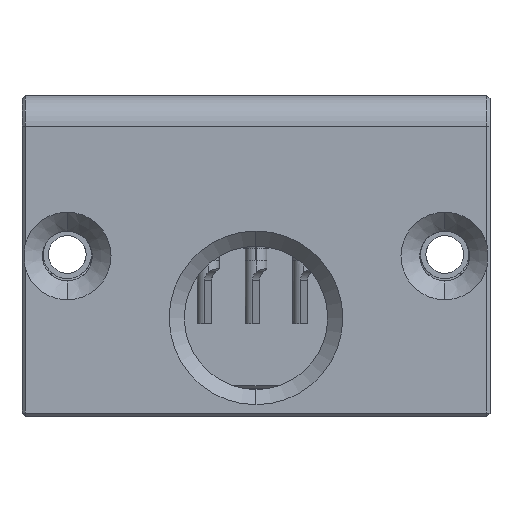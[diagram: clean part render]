
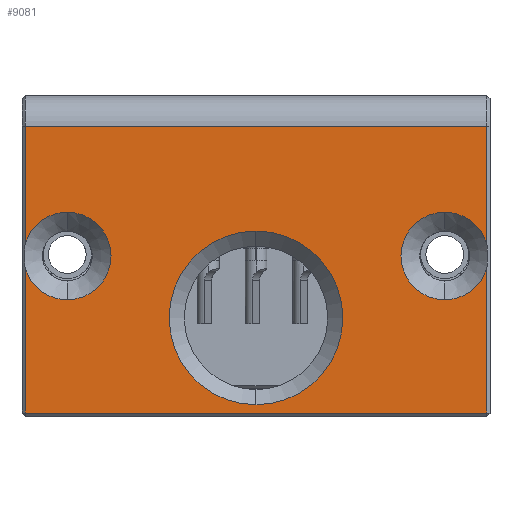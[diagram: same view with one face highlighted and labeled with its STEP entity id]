
A CAD part, front view. The second image highlights one B-rep face of the part: STEP entity #9081.
In plain terms, the highlighted planar face has unit normal (0, -1, 0).
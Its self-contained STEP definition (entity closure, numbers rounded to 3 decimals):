
#90 = CARTESIAN_POINT ( 'NONE',  ( 15.3, -19.3, -17.1 ) ) ;
#352 = DIRECTION ( 'NONE',  ( 1., 0., 0. ) ) ;
#419 = CARTESIAN_POINT ( 'NONE',  ( 0., -19.3, -17.1 ) ) ;
#1311 = ORIENTED_EDGE ( 'NONE', *, *, #11375, .T. ) ;
#1313 = CARTESIAN_POINT ( 'NONE',  ( 0., -19.3, -10.8 ) ) ;
#1347 = CIRCLE ( 'NONE', #11994, 5.75 ) ;
#1362 = DIRECTION ( 'NONE',  ( 0., 1., 0. ) ) ;
#1367 = DIRECTION ( 'NONE',  ( 0., 0., -1. ) ) ;
#1386 = EDGE_CURVE ( 'NONE', #19910, #5057, #8253, .T. ) ;
#1782 = EDGE_CURVE ( 'NONE', #14238, #8580, #18817, .T. ) ;
#1802 = CARTESIAN_POINT ( 'NONE',  ( -15.3, -19.3, -7.455 ) ) ;
#2226 = EDGE_CURVE ( 'NONE', #13300, #2489, #4029, .T. ) ;
#2379 = CIRCLE ( 'NONE', #12183, 5.75 ) ;
#2489 = VERTEX_POINT ( 'NONE', #3591 ) ;
#2608 = LINE ( 'NONE', #11433, #20014 ) ;
#2733 = VECTOR ( 'NONE', #7648, 1000. ) ;
#2794 = ORIENTED_EDGE ( 'NONE', *, *, #14743, .F. ) ;
#2846 = CARTESIAN_POINT ( 'NONE',  ( 12.5, -19.3, -6.7 ) ) ;
#2924 = DIRECTION ( 'NONE',  ( 0., 1., 0. ) ) ;
#2945 = DIRECTION ( 'NONE',  ( 0., 0., -1. ) ) ;
#3150 = EDGE_LOOP ( 'NONE', ( #18522, #13864 ) ) ;
#3349 = VECTOR ( 'NONE', #352, 1000. ) ;
#3423 = CARTESIAN_POINT ( 'NONE',  ( -15.3, -19.3, -7.6 ) ) ;
#3468 = LINE ( 'NONE', #10490, #20871 ) ;
#3591 = CARTESIAN_POINT ( 'NONE',  ( -12.5, -19.3, -3.8 ) ) ;
#3875 = LINE ( 'NONE', #419, #3349 ) ;
#3913 = FACE_BOUND ( 'NONE', #3150, .T. ) ;
#4029 = CIRCLE ( 'NONE', #19526, 2.9 ) ;
#4056 = EDGE_CURVE ( 'NONE', #14294, #16067, #2379, .T. ) ;
#4449 = DIRECTION ( 'NONE',  ( 0., 0., 1. ) ) ;
#4513 = CARTESIAN_POINT ( 'NONE',  ( 15.3, -19.3, -7.6 ) ) ;
#4716 = CIRCLE ( 'NONE', #15822, 2.9 ) ;
#5057 = VERTEX_POINT ( 'NONE', #19554 ) ;
#5393 = VERTEX_POINT ( 'NONE', #1802 ) ;
#5514 = DIRECTION ( 'NONE',  ( 0., 0., -1. ) ) ;
#5962 = CARTESIAN_POINT ( 'NONE',  ( 12.5, -19.3, -3.8 ) ) ;
#6364 = CARTESIAN_POINT ( 'NONE',  ( -12.5, -19.3, -6.7 ) ) ;
#6508 = EDGE_CURVE ( 'NONE', #16067, #14294, #1347, .T. ) ;
#6780 = CIRCLE ( 'NONE', #7609, 2.9 ) ;
#7087 = CARTESIAN_POINT ( 'NONE',  ( 0., -19.3, 1.9 ) ) ;
#7156 = VERTEX_POINT ( 'NONE', #12056 ) ;
#7609 = AXIS2_PLACEMENT_3D ( 'NONE', #8174, #8247, #8539 ) ;
#7648 = DIRECTION ( 'NONE',  ( -1., 0., 0. ) ) ;
#7862 = FACE_OUTER_BOUND ( 'NONE', #18199, .T. ) ;
#7917 = VERTEX_POINT ( 'NONE', #13741 ) ;
#7965 = EDGE_CURVE ( 'NONE', #2489, #18588, #4716, .T. ) ;
#8174 = CARTESIAN_POINT ( 'NONE',  ( -12.5, -19.3, -6.7 ) ) ;
#8247 = DIRECTION ( 'NONE',  ( 0., -1., 0. ) ) ;
#8253 = LINE ( 'NONE', #7087, #2733 ) ;
#8375 = ORIENTED_EDGE ( 'NONE', *, *, #1386, .T. ) ;
#8539 = DIRECTION ( 'NONE',  ( 0., 0., -1. ) ) ;
#8580 = VERTEX_POINT ( 'NONE', #5962 ) ;
#9081 = ADVANCED_FACE ( 'NONE', ( #3913, #7862 ), #17343, .T. ) ;
#9228 = DIRECTION ( 'NONE',  ( 0., 1., 0. ) ) ;
#9782 = EDGE_CURVE ( 'NONE', #20174, #7917, #2608, .T. ) ;
#10325 = EDGE_CURVE ( 'NONE', #8580, #7156, #13266, .T. ) ;
#10490 = CARTESIAN_POINT ( 'NONE',  ( -15.3, -19.3, -7.6 ) ) ;
#10666 = AXIS2_PLACEMENT_3D ( 'NONE', #14042, #14084, #14112 ) ;
#10708 = CARTESIAN_POINT ( 'NONE',  ( -12.5, -19.3, -9.6 ) ) ;
#10727 = EDGE_CURVE ( 'NONE', #7917, #14238, #13523, .T. ) ;
#11110 = ORIENTED_EDGE ( 'NONE', *, *, #7965, .F. ) ;
#11375 = EDGE_CURVE ( 'NONE', #19825, #20174, #3875, .T. ) ;
#11433 = CARTESIAN_POINT ( 'NONE',  ( 15.3, -19.3, -7.6 ) ) ;
#11516 = DIRECTION ( 'NONE',  ( 0., 0., 1. ) ) ;
#11994 = AXIS2_PLACEMENT_3D ( 'NONE', #1313, #1362, #1367 ) ;
#12056 = CARTESIAN_POINT ( 'NONE',  ( 15.3, -19.3, -5.945 ) ) ;
#12183 = AXIS2_PLACEMENT_3D ( 'NONE', #20999, #9228, #19312 ) ;
#12260 = EDGE_CURVE ( 'NONE', #5057, #18588, #17073, .T. ) ;
#12884 = ORIENTED_EDGE ( 'NONE', *, *, #12260, .T. ) ;
#13054 = AXIS2_PLACEMENT_3D ( 'NONE', #17636, #17782, #17835 ) ;
#13210 = AXIS2_PLACEMENT_3D ( 'NONE', #2846, #2924, #2945 ) ;
#13266 = CIRCLE ( 'NONE', #21430, 2.9 ) ;
#13300 = VERTEX_POINT ( 'NONE', #10708 ) ;
#13523 = CIRCLE ( 'NONE', #13210, 2.9 ) ;
#13551 = CARTESIAN_POINT ( 'NONE',  ( 12.5, -19.3, -6.7 ) ) ;
#13641 = DIRECTION ( 'NONE',  ( 0., 1., 0. ) ) ;
#13723 = VECTOR ( 'NONE', #5514, 1000. ) ;
#13741 = CARTESIAN_POINT ( 'NONE',  ( 15.3, -19.3, -7.455 ) ) ;
#13864 = ORIENTED_EDGE ( 'NONE', *, *, #6508, .T. ) ;
#14042 = CARTESIAN_POINT ( 'NONE',  ( 12.5, -19.3, -6.7 ) ) ;
#14084 = DIRECTION ( 'NONE',  ( 0., 1., 0. ) ) ;
#14112 = DIRECTION ( 'NONE',  ( 0., 0., -1. ) ) ;
#14116 = DIRECTION ( 'NONE',  ( 0., 0., -1. ) ) ;
#14207 = CARTESIAN_POINT ( 'NONE',  ( -15.3, -19.3, -5.945 ) ) ;
#14215 = CARTESIAN_POINT ( 'NONE',  ( 0., -19.3, -5.05 ) ) ;
#14238 = VERTEX_POINT ( 'NONE', #18745 ) ;
#14294 = VERTEX_POINT ( 'NONE', #20060 ) ;
#14743 = EDGE_CURVE ( 'NONE', #5393, #13300, #6780, .T. ) ;
#14921 = ORIENTED_EDGE ( 'NONE', *, *, #10325, .T. ) ;
#15272 = VECTOR ( 'NONE', #4449, 1000. ) ;
#15822 = AXIS2_PLACEMENT_3D ( 'NONE', #6364, #18207, #18330 ) ;
#15823 = ORIENTED_EDGE ( 'NONE', *, *, #10727, .T. ) ;
#15951 = ORIENTED_EDGE ( 'NONE', *, *, #21303, .T. ) ;
#16067 = VERTEX_POINT ( 'NONE', #14215 ) ;
#17073 = LINE ( 'NONE', #3423, #13723 ) ;
#17143 = EDGE_CURVE ( 'NONE', #7156, #19910, #19137, .T. ) ;
#17343 = PLANE ( 'NONE',  #13054 ) ;
#17636 = CARTESIAN_POINT ( 'NONE',  ( -15.3, -19.3, 1.9 ) ) ;
#17763 = CARTESIAN_POINT ( 'NONE',  ( 15.3, -19.3, 1.9 ) ) ;
#17782 = DIRECTION ( 'NONE',  ( 0., -1., 0. ) ) ;
#17835 = DIRECTION ( 'NONE',  ( 0., 0., -1. ) ) ;
#18199 = EDGE_LOOP ( 'NONE', ( #1311, #19997, #15823, #18546, #14921, #21766, #8375, #12884, #11110, #21543, #2794, #15951 ) ) ;
#18207 = DIRECTION ( 'NONE',  ( 0., -1., 0. ) ) ;
#18330 = DIRECTION ( 'NONE',  ( 0., 0., -1. ) ) ;
#18522 = ORIENTED_EDGE ( 'NONE', *, *, #4056, .T. ) ;
#18546 = ORIENTED_EDGE ( 'NONE', *, *, #1782, .T. ) ;
#18588 = VERTEX_POINT ( 'NONE', #14207 ) ;
#18745 = CARTESIAN_POINT ( 'NONE',  ( 12.5, -19.3, -9.6 ) ) ;
#18817 = CIRCLE ( 'NONE', #10666, 2.9 ) ;
#18923 = DIRECTION ( 'NONE',  ( 0., 0., -1. ) ) ;
#19137 = LINE ( 'NONE', #4513, #15272 ) ;
#19312 = DIRECTION ( 'NONE',  ( 0., 0., -1. ) ) ;
#19526 = AXIS2_PLACEMENT_3D ( 'NONE', #19665, #19668, #19681 ) ;
#19554 = CARTESIAN_POINT ( 'NONE',  ( -15.3, -19.3, 1.9 ) ) ;
#19665 = CARTESIAN_POINT ( 'NONE',  ( -12.5, -19.3, -6.7 ) ) ;
#19668 = DIRECTION ( 'NONE',  ( 0., -1., 0. ) ) ;
#19681 = DIRECTION ( 'NONE',  ( 0., 0., -1. ) ) ;
#19825 = VERTEX_POINT ( 'NONE', #21040 ) ;
#19910 = VERTEX_POINT ( 'NONE', #17763 ) ;
#19997 = ORIENTED_EDGE ( 'NONE', *, *, #9782, .T. ) ;
#20014 = VECTOR ( 'NONE', #11516, 1000. ) ;
#20060 = CARTESIAN_POINT ( 'NONE',  ( 0., -19.3, -16.55 ) ) ;
#20174 = VERTEX_POINT ( 'NONE', #90 ) ;
#20871 = VECTOR ( 'NONE', #18923, 1000. ) ;
#20999 = CARTESIAN_POINT ( 'NONE',  ( 0., -19.3, -10.8 ) ) ;
#21040 = CARTESIAN_POINT ( 'NONE',  ( -15.3, -19.3, -17.1 ) ) ;
#21303 = EDGE_CURVE ( 'NONE', #5393, #19825, #3468, .T. ) ;
#21430 = AXIS2_PLACEMENT_3D ( 'NONE', #13551, #13641, #14116 ) ;
#21543 = ORIENTED_EDGE ( 'NONE', *, *, #2226, .F. ) ;
#21766 = ORIENTED_EDGE ( 'NONE', *, *, #17143, .T. ) ;
